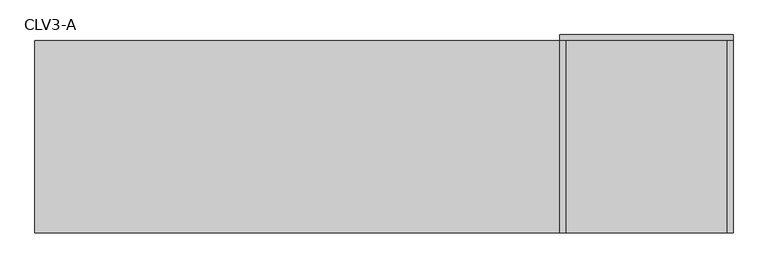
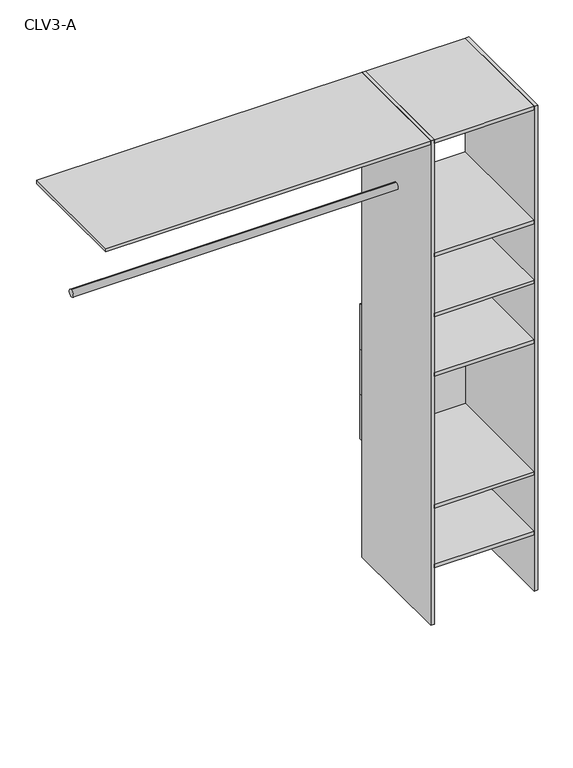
"""IFC4 building model written with IfcOpenShell, lengths in millimetres: furniture geometry, Closet 1estantes-1tubos_sin laterales : CLV3-A."""

from ifc_helpers import new_model, si_unit, point, frame, frame_2d, origin, origin_with_axes, place, context, project, spatial, polyline, circle_curve, trimmed, segment, composite_curve, outline, extrude, source, transform, mapped, element, save


def clv3_a_b75d3170(model_context):
    return source(origin(), model_context, "Body", "SweptSolid", [
        extrude(outline(polyline([(225.0, -100.0), (225.0, -600.0), (210.0, -600.0), (210.0, -100.0), (225.0, -100.0)])), origin_with_axes(), (0.0, 0.0, 1.0), 2150.0),
        extrude(outline(polyline([(-210.0, -100.0), (-210.0, -600.0), (-225.0, -600.0), (-225.0, -100.0), (-210.0, -100.0)])), origin_with_axes(), (0.0, 0.0, 1.0), 2150.0),
        extrude(outline(polyline([(225.0, -100.0), (-225.0, -100.0), (-225.0, -85.0), (225.0, -85.0), (225.0, -100.0)])), frame((0.0, 0.0, 915.0), z_axis=(0.0, 0.0, 1.0), x_axis=(1.0, 0.0, 0.0)), (0.0, 0.0, 1.0), 200.0),
        extrude(outline(polyline([(225.0, -100.0), (-225.0, -100.0), (-225.0, -85.0), (225.0, -85.0), (225.0, -100.0)])), frame((0.0, 0.0, 715.0), z_axis=(0.0, 0.0, 1.0), x_axis=(1.0, 0.0, 0.0)), (0.0, 0.0, 1.0), 200.0),
        extrude(outline(polyline([(225.0, -100.0), (-225.0, -100.0), (-225.0, -85.0), (225.0, -85.0), (225.0, -100.0)])), frame((0.0, 0.0, 515.0), z_axis=(0.0, 0.0, 1.0), x_axis=(1.0, 0.0, 0.0)), (0.0, 0.0, 1.0), 200.0),
        extrude(outline(polyline([(210.0, -100.0), (210.0, -600.0), (-210.0, -600.0), (-210.0, -100.0), (210.0, -100.0)])), frame((0.0, 0.0, 1100.0), z_axis=(0.0, 0.0, 1.0), x_axis=(1.0, 0.0, 0.0)), (0.0, 0.0, 1.0), 15.0),
        extrude(outline(composite_curve([segment(trimmed(circle_curve(frame_2d((-350.0, 1800.0)), 15.0), [point((-350.0, 1815.0))], [point((-350.0, 1785.0))], False, "CARTESIAN"), True, "CONTINUOUS"), segment(trimmed(circle_curve(frame_2d((-350.0, 1800.0)), 15.0), [point((-350.0, 1785.0))], [point((-350.0, 1815.0))], False, "CARTESIAN"), True, "CONTINUOUS")], self_intersect=False)), frame((-1590.0, 0.0, 0.0), z_axis=(1.0, 0.0, 0.0), x_axis=(0.0, 1.0, 0.0)), (0.0, 0.0, 1.0), 1365.0),
        extrude(outline(composite_curve([segment(trimmed(circle_curve(frame_2d((-350.0, 1800.0)), 15.0), [point((-350.0, 1815.0))], [point((-350.0, 1785.0))], False, "CARTESIAN"), True, "CONTINUOUS"), segment(trimmed(circle_curve(frame_2d((-350.0, 1800.0)), 15.0), [point((-350.0, 1785.0))], [point((-350.0, 1815.0))], False, "CARTESIAN"), True, "CONTINUOUS")], self_intersect=False)), frame((-1590.0, 0.0, 0.0), z_axis=(1.0, 0.0, 0.0), x_axis=(0.0, 1.0, 0.0)), (0.0, 0.0, 1.0), 1365.0),
        extrude(outline(polyline([(210.0, -100.0), (210.0, -600.0), (-210.0, -600.0), (-210.0, -100.0), (210.0, -100.0)])), frame((0.0, 0.0, 250.0), z_axis=(0.0, 0.0, 1.0), x_axis=(1.0, 0.0, 0.0)), (0.0, 0.0, 1.0), 15.0),
        extrude(outline(polyline([(210.0, -100.0), (210.0, -600.0), (-210.0, -600.0), (-210.0, -100.0), (210.0, -100.0)])), frame((0.0, 0.0, 515.0), z_axis=(0.0, 0.0, 1.0), x_axis=(1.0, 0.0, 0.0)), (0.0, 0.0, 1.0), 15.0),
        extrude(outline(polyline([(210.0, -100.0), (210.0, -600.0), (-210.0, -600.0), (-210.0, -100.0), (210.0, -100.0)])), frame((0.0, 0.0, 1365.0), z_axis=(0.0, 0.0, 1.0), x_axis=(1.0, 0.0, 0.0)), (0.0, 0.0, 1.0), 15.0),
        extrude(outline(polyline([(210.0, -100.0), (210.0, -600.0), (-210.0, -600.0), (-210.0, -100.0), (210.0, -100.0)])), frame((0.0, 0.0, 1630.0), z_axis=(0.0, 0.0, 1.0), x_axis=(1.0, 0.0, 0.0)), (0.0, 0.0, 1.0), 15.0),
        extrude(outline(polyline([(-210.0, -100.0), (-210.0, -600.0), (-1590.0, -600.0), (-1590.0, -100.0), (-210.0, -100.0)])), frame((0.0, 0.0, 2135.0), z_axis=(0.0, 0.0, 1.0), x_axis=(1.0, 0.0, 0.0)), (0.0, 0.0, 1.0), 15.0),
        extrude(outline(polyline([(210.0, -100.0), (210.0, -600.0), (-210.0, -600.0), (-210.0, -100.0), (210.0, -100.0)])), frame((0.0, 0.0, 2135.0), z_axis=(0.0, 0.0, 1.0), x_axis=(1.0, 0.0, 0.0)), (0.0, 0.0, 1.0), 15.0),
    ])


if __name__ == "__main__":
    model = new_model("IFC4")
    model_context = context("Model", 3, world=origin())
    ifc_project = project(units=[si_unit("LENGTHUNIT", "METRE", prefix="MILLI")], contexts=[model_context])
    site = spatial("IfcSite", under=ifc_project)
    building = spatial("IfcBuilding", under=site)
    placement = place(None, origin())
    clv3_a_shape = clv3_a_b75d3170(model_context)
    element("IfcFurniture", 1, ObjectType="Closet 1estantes-1tubos_sin laterales : CLV3-A", at=placement, inside=building, context=model_context, shape_type="MappedRepresentation", body=[
        mapped(clv3_a_shape, transform((0.0, 0.0, 0.0), x_axis=(1.0, 0.0, 0.0), y_axis=(0.0, 1.0, 0.0), z_axis=(0.0, 0.0, 1.0))),
    ])
    save(model, "model.ifc")
